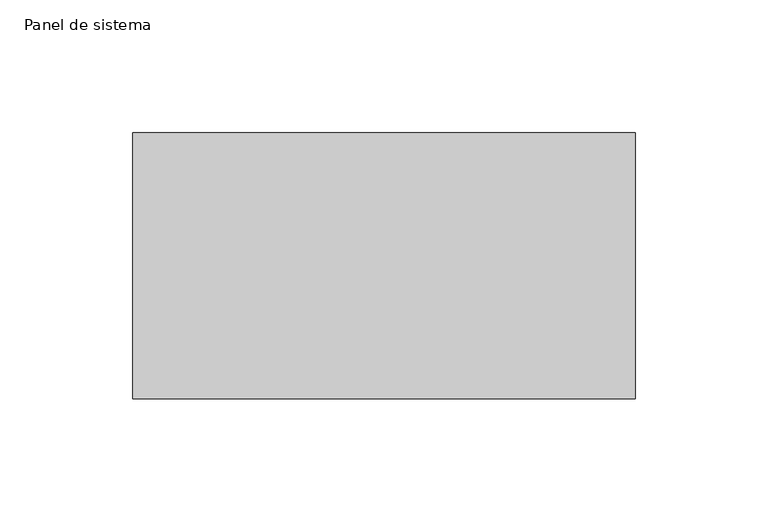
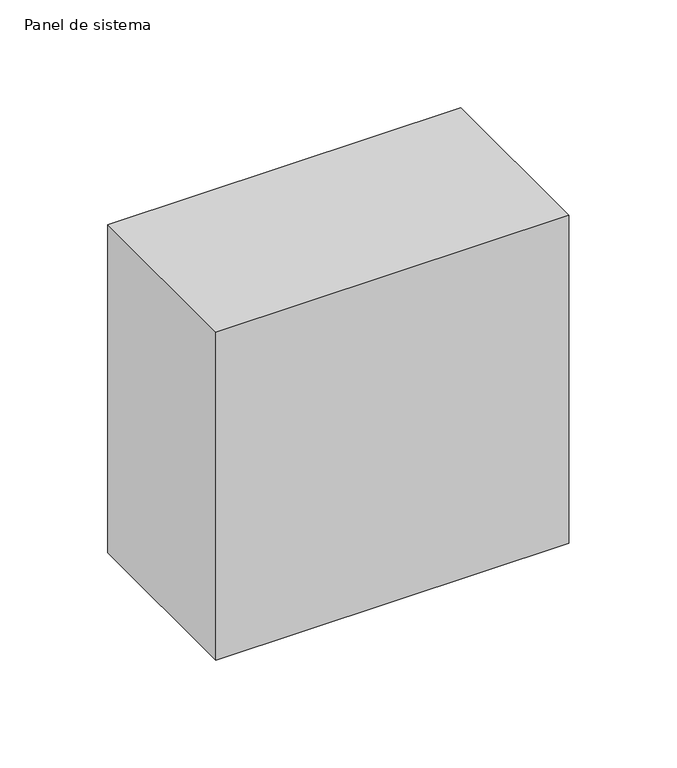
"""IFC4 building model written with IfcOpenShell, lengths in millimetres: plate geometry, Panel de sistema : PAVES."""

from ifc_helpers import new_model, si_unit, origin, origin_with_axes, place, context, project, spatial, polyline, outline, extrude, source, transform, mapped, element, save


def panel_de_sistema_3571c154(model_context):
    return source(origin(), model_context, "Body", "SweptSolid", [
        extrude(outline(polyline([(94.4444444, -50.0), (-94.4444444, -50.0), (-94.4444444, 50.0), (94.4444444, 50.0), (94.4444444, -50.0)])), origin_with_axes(), (0.0, 0.0, 1.0), 185.5555556),
    ])


if __name__ == "__main__":
    model = new_model("IFC4")
    model_context = context("Model", 3, world=origin())
    ifc_project = project(units=[si_unit("LENGTHUNIT", "METRE", prefix="MILLI")], contexts=[model_context])
    site = spatial("IfcSite", under=ifc_project)
    building = spatial("IfcBuilding", under=site)
    placement = place(None, origin())
    panel_de_sistema_shape = panel_de_sistema_3571c154(model_context)
    element("IfcPlate", 1, ObjectType="Panel de sistema : PAVES", at=placement, inside=building, context=model_context, shape_type="MappedRepresentation", body=[
        mapped(panel_de_sistema_shape, transform((0.0, 0.0, 0.0), x_axis=(1.0, 0.0, 0.0), y_axis=(0.0, 1.0, 0.0), z_axis=(0.0, 0.0, 1.0))),
    ])
    save(model, "model.ifc")
